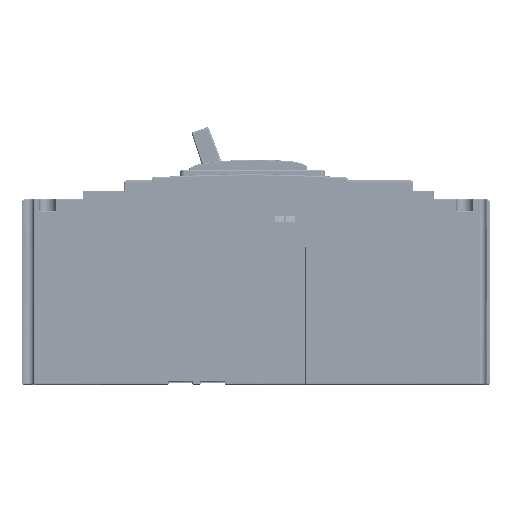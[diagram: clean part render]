
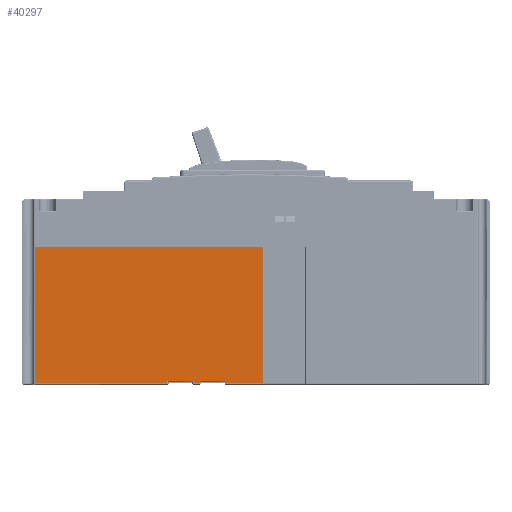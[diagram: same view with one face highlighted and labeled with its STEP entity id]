
A CAD part, left-side view. The second image highlights one B-rep face of the part: STEP entity #40297.
In plain terms, the highlighted planar face has unit normal (-1, 0, 0).
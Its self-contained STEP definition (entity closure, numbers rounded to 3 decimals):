
#3339=DIRECTION('',(0.,0.,1.));
#3340=VECTOR('',#3339,2.);
#3341=CARTESIAN_POINT('',(2376.571,10.002,15.41));
#3342=LINE('',#3341,#3340);
#3351=DIRECTION('',(0.,1.,0.));
#3352=VECTOR('',#3351,19.2);
#3353=CARTESIAN_POINT('',(2376.571,10.002,17.41));
#3354=LINE('',#3353,#3352);
#10009=DIRECTION('',(0.,1.,0.));
#10010=VECTOR('',#10009,26.6);
#10011=CARTESIAN_POINT('',(2376.571,-16.598,
15.41));
#10012=LINE('',#10011,#10010);
#10017=DIRECTION('',(0.,1.,0.));
#10018=VECTOR('',#10017,165.583);
#10019=CARTESIAN_POINT('',(2376.571,-16.598,
114.41));
#10020=LINE('',#10019,#10018);
#10025=DIRECTION('',(0.,1.,0.));
#10026=VECTOR('',#10025,96.283);
#10027=CARTESIAN_POINT('',(2376.571,52.702,15.41));
#10028=LINE('',#10027,#10026);
#10133=DIRECTION('',(0.,1.,0.));
#10134=VECTOR('',#10133,4.3);
#10135=CARTESIAN_POINT('',(2376.571,29.202,15.41));
#10136=LINE('',#10135,#10134);
#10168=DIRECTION('',(0.,0.,-1.));
#10169=VECTOR('',#10168,2.);
#10170=CARTESIAN_POINT('',(2376.571,29.202,17.41));
#10171=LINE('',#10170,#10169);
#12319=DIRECTION('',(0.,0.,1.));
#12320=VECTOR('',#12319,99.);
#12321=CARTESIAN_POINT('',(2376.571,148.986,15.41));
#12322=LINE('',#12321,#12320);
#16071=DIRECTION('',(0.,0.,1.));
#16072=VECTOR('',#16071,2.);
#16073=CARTESIAN_POINT('',(2376.571,33.502,15.41));
#16074=LINE('',#16073,#16072);
#16079=DIRECTION('',(0.,1.,0.));
#16080=VECTOR('',#16079,19.2);
#16081=CARTESIAN_POINT('',(2376.571,33.502,17.41));
#16082=LINE('',#16081,#16080);
#16095=DIRECTION('',(0.,0.,-1.));
#16096=VECTOR('',#16095,2.);
#16097=CARTESIAN_POINT('',(2376.571,52.702,17.41));
#16098=LINE('',#16097,#16096);
#16122=DIRECTION('',(0.,0.,-1.));
#16123=VECTOR('',#16122,99.);
#16124=CARTESIAN_POINT('',(2376.571,-16.598,
114.41));
#16125=LINE('',#16124,#16123);
#20895=CARTESIAN_POINT('',(2376.571,52.702,15.41));
#20896=CARTESIAN_POINT('',(2376.571,148.986,15.41));
#20897=VERTEX_POINT('',#20895);
#20898=VERTEX_POINT('',#20896);
#20899=CARTESIAN_POINT('',(2376.571,52.702,17.41));
#20900=VERTEX_POINT('',#20899);
#20901=CARTESIAN_POINT('',(2376.571,33.502,17.41));
#20902=VERTEX_POINT('',#20901);
#20903=CARTESIAN_POINT('',(2376.571,33.502,15.41));
#20904=VERTEX_POINT('',#20903);
#20905=CARTESIAN_POINT('',(2376.571,29.202,15.41));
#20906=VERTEX_POINT('',#20905);
#20907=CARTESIAN_POINT('',(2376.571,29.202,17.41));
#20908=VERTEX_POINT('',#20907);
#20909=CARTESIAN_POINT('',(2376.571,10.002,17.41));
#20910=VERTEX_POINT('',#20909);
#20911=CARTESIAN_POINT('',(2376.571,10.002,15.41));
#20912=VERTEX_POINT('',#20911);
#20913=CARTESIAN_POINT('',(2376.571,-16.598,
15.41));
#20914=VERTEX_POINT('',#20913);
#20915=CARTESIAN_POINT('',(2376.571,-16.598,
114.41));
#20916=VERTEX_POINT('',#20915);
#20917=CARTESIAN_POINT('',(2376.571,148.986,114.41));
#20918=VERTEX_POINT('',#20917);
#40270=CARTESIAN_POINT('',(2376.571,-1.798,
114.41));
#40271=DIRECTION('',(-1.,0.,0.));
#40272=DIRECTION('',(0.,0.,-1.));
#40273=AXIS2_PLACEMENT_3D('',#40270,#40271,#40272);
#40274=PLANE('',#40273);
#40276=ORIENTED_EDGE('',*,*,#40275,.T.);
#40278=ORIENTED_EDGE('',*,*,#40277,.T.);
#40279=ORIENTED_EDGE('',*,*,#39871,.F.);
#40281=ORIENTED_EDGE('',*,*,#40280,.T.);
#40282=ORIENTED_EDGE('',*,*,#40262,.T.);
#40283=ORIENTED_EDGE('',*,*,#30563,.T.);
#40284=ORIENTED_EDGE('',*,*,#30579,.T.);
#40286=ORIENTED_EDGE('',*,*,#40285,.T.);
#40288=ORIENTED_EDGE('',*,*,#40287,.T.);
#40290=ORIENTED_EDGE('',*,*,#40289,.T.);
#40292=ORIENTED_EDGE('',*,*,#40291,.T.);
#40294=ORIENTED_EDGE('',*,*,#40293,.T.);
#40295=EDGE_LOOP('',(#40276,#40278,#40279,#40281,#40282,#40283,#40284,#40286,
#40288,#40290,#40292,#40294));
#40296=FACE_OUTER_BOUND('',#40295,.F.);
#40297=ADVANCED_FACE('',(#40296),#40274,.T.);
#30563=EDGE_CURVE('',#20912,#20910,#3342,.T.);
#30579=EDGE_CURVE('',#20910,#20908,#3354,.T.);
#39871=EDGE_CURVE('',#20916,#20918,#10020,.T.);
#40262=EDGE_CURVE('',#20914,#20912,#10012,.T.);
#40275=EDGE_CURVE('',#20897,#20898,#10028,.T.);
#40277=EDGE_CURVE('',#20898,#20918,#12322,.T.);
#40280=EDGE_CURVE('',#20916,#20914,#16125,.T.);
#40285=EDGE_CURVE('',#20908,#20906,#10171,.T.);
#40287=EDGE_CURVE('',#20906,#20904,#10136,.T.);
#40289=EDGE_CURVE('',#20904,#20902,#16074,.T.);
#40291=EDGE_CURVE('',#20902,#20900,#16082,.T.);
#40293=EDGE_CURVE('',#20900,#20897,#16098,.T.);
